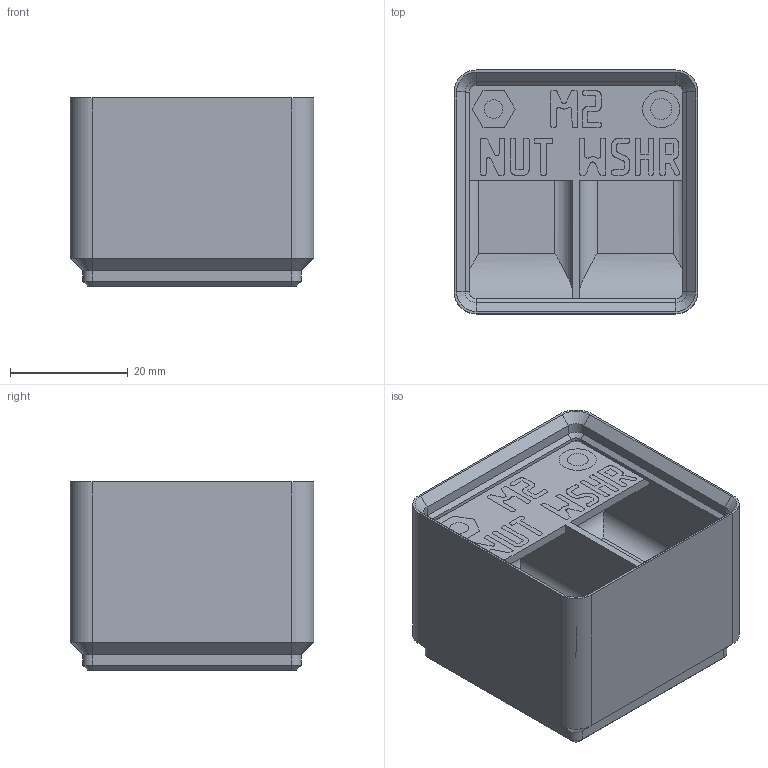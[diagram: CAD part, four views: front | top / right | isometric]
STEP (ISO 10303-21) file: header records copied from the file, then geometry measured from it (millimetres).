
FILE_DESCRIPTION(('Open CASCADE Model'),'2;1');
FILE_NAME('bin_M2_NUT-WSHR','2026-11-03T10:51:25',('Author'),( 'Open CASCADE'),'Open CASCADE STEP processor 8.0','build123d', 'Unknown');
FILE_SCHEMA(('AUTOMOTIVE_DESIGN { 1 0 10303 214 1 1 1 1 }'));
Length unit declared in the file: millimetre
Products named in the file (3): bin_M2_NUT-WSHR; M2_NUT-WSHR_body; M2_NUT-WSHR_label
Assembly tree (2 placements, depth 2):
  bin_M2_NUT-WSHR
    M2_NUT-WSHR_body
    M2_NUT-WSHR_label
Bounding box: 41.5 x 41.5 x 32 mm (x, y, z)
Volume: 30935.7 mm3; surface area: 12852.9 mm2
Topology: 12 solids, 12 shells, 1993 faces, 5802 edges, 3848 vertices
Faces by surface type: plane 1943, cylinder 30, cone 20
Full cylindrical faces by diameter (mm): 3.15 x2, 3.591 x2, 6.3 x2
Entity records: 140230 total; most frequent: CARTESIAN_POINT 24150, DIRECTION 21202, LINE 17046, VECTOR 17046, ORIENTED_EDGE 11604, PCURVE 11604, DEFINITIONAL_REPRESENTATION 11604, EDGE_CURVE 5802
